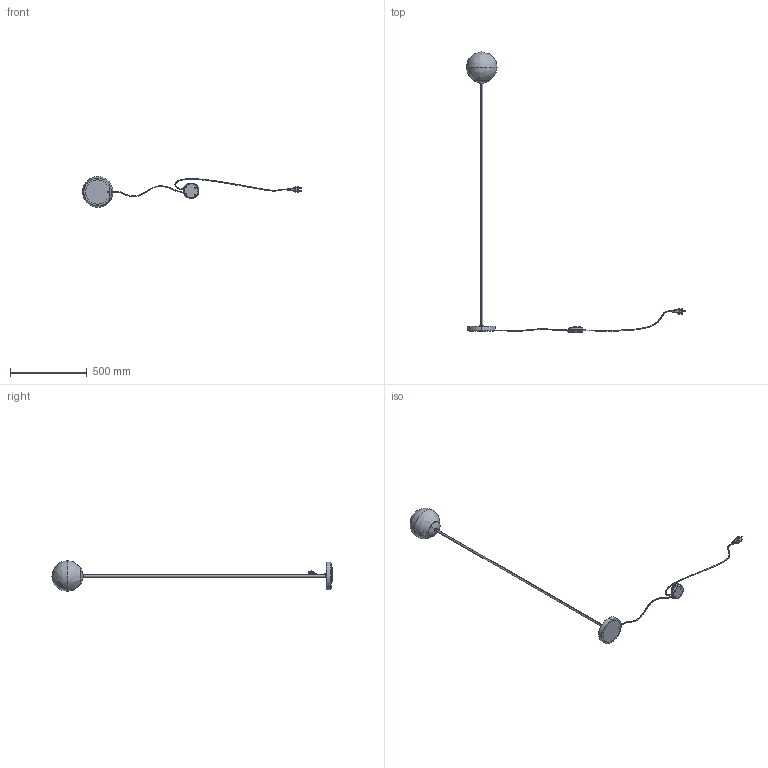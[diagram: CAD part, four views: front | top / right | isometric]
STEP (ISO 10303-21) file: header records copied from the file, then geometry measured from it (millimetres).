
FILE_DESCRIPTION (( 'STEP AP203' ), '1' );
FILE_NAME ('Mod. 1081 H. 1,82_27.STEP', '2023-06-27T12:15:27', ( '' ), ( '' ), 'SwSTEP 2.0', 'SolidWorks 2023', '' );
FILE_SCHEMA (( 'CONFIG_CONTROL_DESIGN' ));
Length unit declared in the file: millimetre
Products named in the file (9): Cavo alimentazione 2; 4_1; Dimmer Arditi 1012; Base con asta; Mod. 1081 H. 1,82_27; Schuko-Stecker; Cavo alimentazione; Sfera; 61-2135-PART1_TUTTO.PRT.1.1_1
Assembly tree (8 placements, depth 2):
  Mod. 1081 H. 1,82_27
    Base con asta
    4_1
    61-2135-PART1_TUTTO.PRT.1.1_1
    Sfera
    Cavo alimentazione
    Dimmer Arditi 1012
    Cavo alimentazione 2
    Schuko-Stecker
Bounding box: 1430.48 x 1827.1 x 199.96 mm (x, y, z)
Volume: 5437431.9 mm3; surface area: 387374.8 mm2
Topology: 14 solids, 14 shells, 669 faces, 1694 edges, 1055 vertices
Faces by surface type: plane 224, cylinder 171, bspline 155, torus 71, cone 32, sphere 16
Entity records: 40472 total; most frequent: CARTESIAN_POINT 24930, ORIENTED_EDGE 3348, DIRECTION 2648, EDGE_CURVE 1674, VERTEX_POINT 1050, AXIS2_PLACEMENT_3D 1024, EDGE_LOOP 696, ADVANCED_FACE 669
